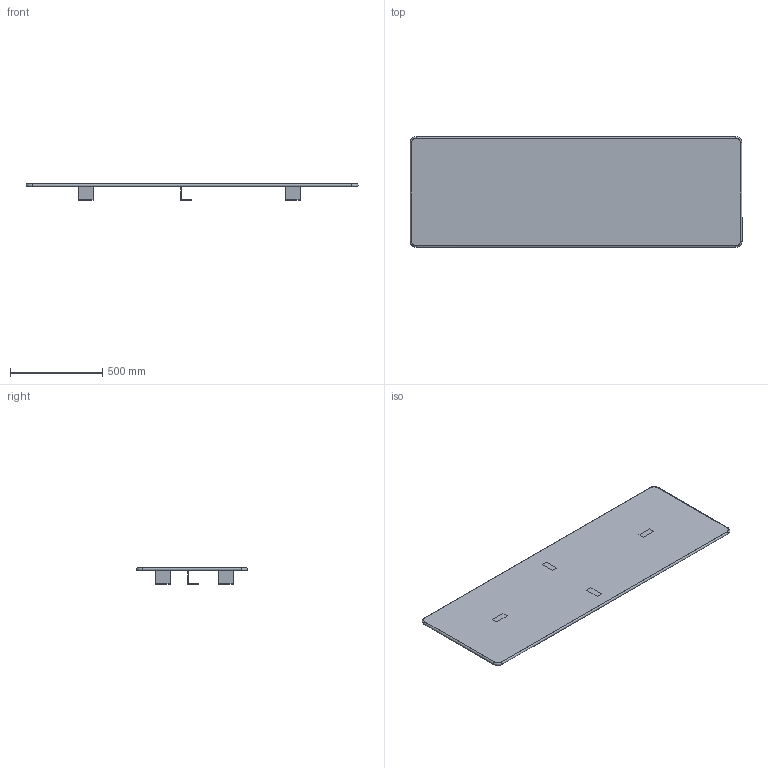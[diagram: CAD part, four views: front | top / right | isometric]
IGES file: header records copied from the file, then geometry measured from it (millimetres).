
Start section: SolidWorks IGES file using NURBS representation for surfaces
Global section: file name: G:\VICCARBE\PRODUCTOS\26-PANELES LAYER\04-MODELADOS (PLANOS)\especiales para 3D\VICCARBE_LayerPanel_1800x600d85.IGS; native system: SolidWorks 2009; preprocessor: SolidWorks 2009; author: RUBEN; date: 110906.114852; units: millimetre
Bounding box: 1801 x 601 x 90.5 mm (x, y, z)
Surface area: 2572035.8 mm2 (no closed solid volume)
Topology: 0 solids, 0 shells, 63 faces, 424 edges, 424 vertices
Faces by surface type: bspline 63
